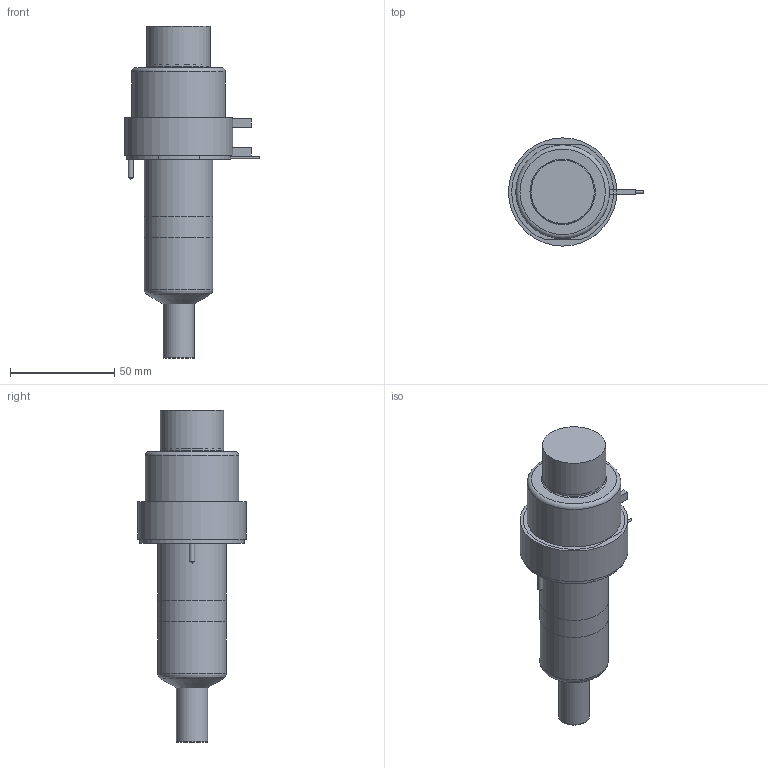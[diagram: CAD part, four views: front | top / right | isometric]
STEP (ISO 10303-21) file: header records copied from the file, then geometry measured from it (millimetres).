
FILE_DESCRIPTION(/* description */ (''),/* implementation_level */ '2;1');
FILE_NAME(/* name */ 'SXYCN19075P4U_200C_a',/* time_stamp */ '2016-03-04T16:18:45+13:00',/* author */ (''),/* organization */ (''),/* preprocessor_version */ 'ST-DEVELOPER v9',/* originating_system */ 'UGS - NX 4.0',/* authorisation */ '');
FILE_SCHEMA (('CONFIG_CONTROL_DESIGN'));
Length unit declared in the file: millimetre
Products named in the file (1): Matt1033hvlb
Bounding box: 64.85 x 52 x 159.47 mm (x, y, z)
Volume: 274577.2 mm3; surface area: 42687 mm2
Topology: 7 solids, 7 shells, 91 faces, 175 edges, 112 vertices
Faces by surface type: plane 45, cylinder 29, torus 8, cone 7, bspline 1, sphere 1
Full cylindrical faces by diameter (mm): 1 x3, 2 x1, 2.5 x2, 7 x1, 8 x1, 14.61 x1, 14.995 x2, 18.3 x1, 28.6 x1, 30 x1, 30.4 x1, 33 x2, 38.1 x1, 45 x1, 50 x1, 52 x1
Entity records: 2230 total; most frequent: CARTESIAN_POINT 435, DIRECTION 378, ORIENTED_EDGE 266, AXIS2_PLACEMENT_3D 164, EDGE_LOOP 140, EDGE_CURVE 133, VERTEX_POINT 106, ADVANCED_FACE 91
